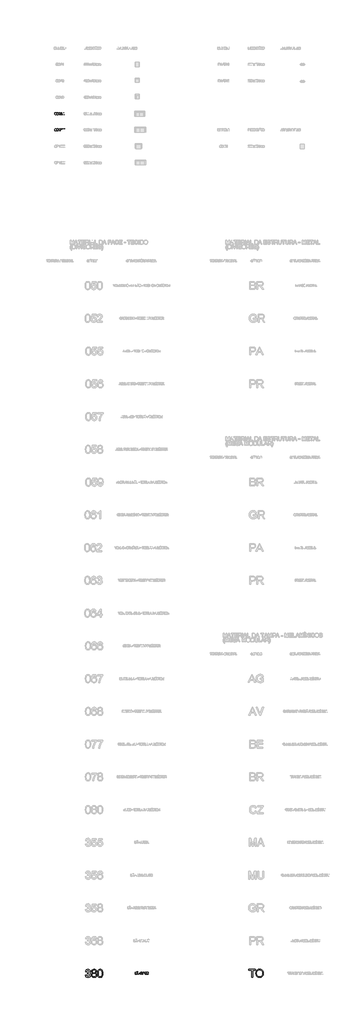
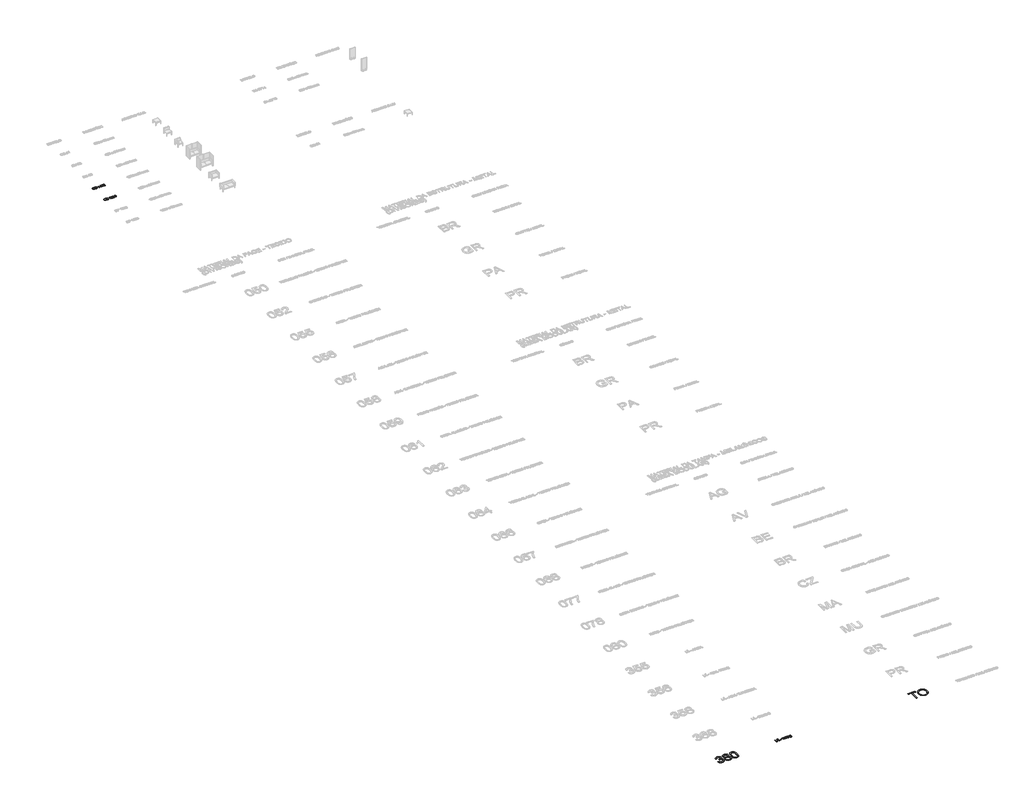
# One storey, part 24 of 67: 5 proxies.
"""IFC4 building model written with IfcOpenShell, lengths in millimetres."""

from ifc_helpers import new_model, si_unit, origin, origin_with_axes, place, context, project, spatial, polyline, outline, extrude, element, save

model = new_model("IFC4")

# Units and contexts
model_context = context("Model", 3, world=origin())
ifc_project = project(units=[si_unit("LENGTHUNIT", "METRE", prefix="MILLI")], contexts=[model_context])

# Site, building, storey
site = spatial("IfcSite", under=ifc_project)
building = spatial("IfcBuilding", under=site)
storey = spatial("IfcBuildingStorey", under=building, Name="Marelli - Linha COLAB - Planta Baixa", Elevation=0.0)

# Proxies
placement = place(None, origin())
element("IfcBuildingElementProxy", 1, Name="1200mm Arial", ObjectType="1200mm Arial", at=placement, inside=storey, context=model_context, shape_type="SweptSolid", body=[
    extrude(outline(polyline([(25176.7442257, -132988.8184403), (25176.7442257, -131934.0271837), (24781.1975045, -131934.0271837), (24781.1975045, -131783.3427185), (25722.9754121, -131783.3427185), (25722.9754121, -131934.0271837), (25327.4286909, -131934.0271837), (25327.4286909, -132988.8184403), (25176.7442257, -132988.8184403)])), origin_with_axes(), (0.0, 0.0, 1.0), 10.0),
    extrude(outline(polyline([(25835.9887611, -132401.9730816), (25838.4995557, -132329.2474096), (25846.0319395, -132260.5776367), (25858.5859126, -132195.9637628), (25876.1614749, -132135.4057879), (25898.7586265, -132078.9037119), (25926.3773673, -132026.457535), (25959.0176973, -131978.067257), (25996.6796166, -131933.7328781), (26038.3100628, -131894.0706005), (26082.8559739, -131859.6966266), (26130.3173498, -131830.6109563), (26180.6941905, -131806.8135898), (26233.9864961, -131788.3045269), (26290.1942664, -131775.0837677), (26349.3175016, -131767.1513122), (26411.3562015, -131764.5071603), (26492.4557874, -131769.4735673), (26569.471883, -131784.3727881), (26642.4044886, -131809.2048227), (26711.253604, -131843.9696713), (26774.0878488, -131887.61887), (26828.9758424, -131939.1039552), (26875.917585, -131998.424927), (26914.9130765, -132065.5817852), (26945.5576467, -132139.0478196), (26967.4466254, -132217.29632), (26980.5800127, -132300.3272863), (26984.9578084, -132388.1407185), (26980.3500864, -132477.1129791), (26966.5269204, -132561.2659855), (26943.4883105, -132640.5997377), (26911.2342566, -132715.1142359), (26870.5281138, -132782.8413112), (26822.1332373, -132841.812795), (26766.0496272, -132892.0286873), (26702.2772833, -132933.4889882), (26633.3270004, -132965.9361802), (26561.7095729, -132989.1127459), (26487.4250011, -133003.0186853), (26410.4732847, -133007.6539984), (26327.9573532, -133002.5312416), (26249.929582, -132987.1629713), (26176.3899712, -132961.5491874), (26107.3385207, -132925.6898899), (26044.5778523, -132880.9738334), (25989.9105878, -132828.7897724), (25943.3367273, -132769.1377068), (25904.8562706, -132702.0176368), (25874.7267352, -132630.1242979), (25853.2056384, -132556.1524257), (25840.2929804, -132480.1020203), (25835.9887611, -132401.9730816)]), holes=[polyline([(25986.6732263, -132403.4446095), (25988.5563222, -132454.7963375), (25994.2056101, -132503.3429653), (26003.62109, -132549.0844929), (26016.8027617, -132592.0209203), (26033.7506254, -132632.1522474), (26054.4646809, -132669.4784744), (26078.9449285, -132703.9996011), (26107.1913679, -132735.7156276), (26138.2796958, -132764.1345117), (26171.2856085, -132788.7642113), (26206.2091062, -132809.6047263), (26243.0501887, -132826.6560568), (26281.8088562, -132839.9182027), (26322.4851085, -132849.3911641), (26365.0789458, -132855.0749409), (26409.5903679, -132856.9695332), (26454.915729, -132855.0565468), (26498.1855494, -132849.3175877), (26539.3998292, -132839.7526558), (26578.5585683, -132826.3617512), (26615.6617668, -132809.1448738), (26650.7094246, -132788.1020237), (26683.7015418, -132763.2332008), (26714.6381183, -132734.5384052), (26742.6776242, -132702.325738), (26766.9785292, -132666.9033004), (26787.5408335, -132628.2710924), (26804.364537, -132586.4291139), (26817.4496397, -132541.3773651), (26826.7961416, -132493.1158459), (26832.4040428, -132441.6445562), (26834.2733432, -132386.9634962), (26831.0727698, -132318.0040162), (26821.4710497, -132253.5694847), (26805.468183, -132193.6599018), (26783.0641694, -132138.2752674), (26754.5073296, -132088.1421485), (26720.0459837, -132043.9871121), (26679.6801317, -132005.810158), (26633.4097738, -131973.6112864), (26582.6696496, -131948.0526848), (26528.894499, -131929.7965408), (26472.0843219, -131918.8428543), (26412.2391183, -131915.1916255), (26369.4406467, -131916.9505613), (26328.1596883, -131922.2273687), (26288.3962432, -131931.0220476), (26250.1503112, -131943.3345982), (26213.4218925, -131959.1650203), (26178.2109871, -131978.513314), (26144.5175948, -132001.3794792), (26112.3417158, -132027.7635161), (26082.8881636, -132058.2586342), (26057.3617517, -132093.4580434), (26035.76248, -132133.3617435), (26018.0903487, -132177.9697347), (26004.3453576, -132227.2820169), (25994.5275069, -132281.2985901), (25988.6367964, -132340.0194543), (25986.6732263, -132403.4446095)])]), origin_with_axes(), (0.0, 0.0, 1.0), 10.0),
])
element("IfcBuildingElementProxy", 2, Name="1200mm Arial", ObjectType="1200mm Arial", at=placement, inside=storey, context=model_context, shape_type="SweptSolid", body=[
    extrude(outline(polyline([(-181.1313792, -132668.6139517), (-30.446914, -132649.7783935), (-15.5384961, -132700.9691731), (3.287865, -132744.4712191), (26.0321693, -132780.2845313), (52.6944169, -132808.4091098), (83.8816131, -132829.6542951), (120.200763, -132844.8294274), (161.6518669, -132853.9345067), (208.2349245, -132856.9695332), (262.8286126, -132852.7940725), (311.5361887, -132840.2676906), (354.357653, -132819.3903874), (391.2930053, -132790.1621629), (421.0362646, -132754.7719149), (442.2814498, -132715.4085415), (455.028561, -132672.0720424), (459.277598, -132624.7624178), (455.0653492, -132579.7060705), (442.4286026, -132538.7148192), (421.3673584, -132501.7886639), (391.8816165, -132468.9276047), (355.9027574, -132441.9526574), (315.3621615, -132422.6848379), (270.2598289, -132411.1241462), (220.5957595, -132407.2705823), (172.9918294, -132411.3908606), (114.9400505, -132423.7516957), (131.7154695, -132273.0672304), (155.8485284, -132274.833064), (202.1832657, -132272.1291314), (246.12677, -132264.0173334), (287.6790413, -132250.49767), (326.8400797, -132231.5701414), (360.0598239, -132207.0324123), (383.7882126, -132176.6821477), (398.0252458, -132140.5193476), (402.7709235, -132098.5440119), (399.3312269, -132064.4689421), (389.0121369, -132033.465687), (371.8136536, -132005.5342465), (347.7357771, -131980.6746207), (318.231641, -131960.266367), (284.7543795, -131945.6890429), (247.3039924, -131936.9426485), (205.8804797, -131934.0271837), (164.5673317, -131936.9702397), (126.8594272, -131945.7994075), (92.7567662, -131960.5146873), (62.2593488, -131981.1160791), (36.121333, -132007.6035827), (15.096877, -132039.9771983), (-0.8140193, -132078.2369258), (-11.6113558, -132122.3827652), (-162.2958211, -132103.5472071), (-144.4351502, -132031.6078829), (-117.9292524, -131968.2402092), (-82.7781278, -131913.4441861), (-38.9817763, -131867.2198134), (12.0802447, -131830.5235844), (69.0283775, -131804.3119922), (131.8626223, -131788.5850369), (200.582979, -131783.3427185), (248.9134761, -131785.9270895), (295.3125927, -131793.6802025), (339.7803289, -131806.6020576), (382.3166846, -131824.6926547), (421.4409348, -131847.2622151), (455.6723544, -131873.6209601), (485.0109436, -131903.7688896), (509.4567021, -131937.7060036), (528.7061275, -131974.0803359), (542.4557171, -132011.5399201), (550.7054709, -132050.0847561), (553.4553888, -132089.7148441), (550.8434266, -132126.9812902), (543.0075401, -132162.5554791), (529.9477293, -132196.4374109), (511.6639941, -132228.6270854), (488.2666992, -132258.3703447), (459.8662092, -132284.9130307), (426.462524, -132308.2551433), (388.0556437, -132328.3966825), (438.2715361, -132344.1052437), (482.3805873, -132366.5092572), (520.3827974, -132395.608723), (552.2781664, -132431.4036412), (577.5148712, -132473.0110948), (595.541089, -132519.5481672), (606.3568197, -132571.0148583), (609.9620632, -132627.4111682), (608.1594414, -132666.3882656), (602.7515761, -132703.8570468), (593.7384672, -132739.8175118), (581.1201148, -132774.2696607), (564.8965188, -132807.2134933), (545.0676793, -132838.6490098), (521.6335962, -132868.5762101), (494.5942695, -132896.9950943), (464.8004265, -132922.9307749), (433.102794, -132945.4083648), (399.5013723, -132964.427864), (363.9961612, -132979.9892724), (326.5871609, -132992.09259), (287.2743712, -133000.7378169), (246.0577921, -133005.924953), (202.9374238, -133007.6539984), (126.7122744, -133001.7494924), (91.1380854, -132994.3688599), (57.2561537, -132984.0359743), (25.0664791, -132970.7508358), (-5.4309383, -132954.5134442), (-34.2360985, -132935.3237996), (-61.3490016, -132913.1819021), (-86.2040289, -132888.6947568), (-108.2355619, -132862.469369), (-127.4436005, -132834.5057389), (-143.8281449, -132804.8038663), (-157.3891949, -132773.3637513), (-168.1267507, -132740.1853938), (-181.1313792, -132668.6139517)])), origin_with_axes(), (0.0, 0.0, 1.0), 10.0),
    extrude(outline(polyline([(961.362945, -132324.8650154), (918.0172489, -132306.7652212), (880.6864235, -132285.1337599), (849.3704686, -132259.9706314), (824.0693844, -132231.2758358), (804.5624416, -132199.3252845), (790.6289111, -132164.3948891), (782.2687927, -132126.4846495), (779.4820866, -132085.5945657), (785.5521395, -132024.1398784), (793.1397057, -131995.3301197), (803.7622983, -131967.7987509), (817.4199174, -131941.545772), (834.1125629, -131916.571183), (876.6029333, -131870.4571749), (901.890222, -131850.0397242), (929.1916645, -131832.3446002), (958.507261, -131817.371803), (989.8370114, -131805.1213326), (1058.538974, -131788.787372), (1135.2975523, -131783.3427185), (1212.4240126, -131788.9161307), (1281.64101, -131805.6363674), (1313.2834601, -131818.1765449), (1342.9485445, -131833.5034285), (1370.6362632, -131851.6170182), (1396.3466161, -131872.5173141), (1439.6095387, -131919.5326331), (1456.6056869, -131944.8613085), (1470.5116263, -131971.4039944), (1481.327357, -131999.1606909), (1489.0528789, -132028.1313981), (1493.688192, -132058.3161158), (1495.2332964, -132089.7148441), (1492.4833785, -132129.160991), (1484.2336248, -132165.9767817), (1470.4840352, -132200.1622161), (1451.2346098, -132231.7172942), (1426.3933781, -132260.2189518), (1395.8683695, -132285.2441245), (1359.6595841, -132306.7928124), (1317.7670219, -132324.8650154), (1367.2931355, -132345.9354566), (1410.5100729, -132372.6528865), (1447.4178341, -132405.0173051), (1478.016419, -132443.0287122), (1502.0299163, -132485.8409794), (1519.1824143, -132532.607978), (1529.4739131, -132583.3297081), (1532.9044127, -132638.0061697), (1531.2029585, -132676.3670647), (1526.0985958, -132713.1644613), (1517.5913247, -132748.3983594), (1505.6811451, -132782.068759), (1490.368057, -132814.1756601), (1471.6520605, -132844.7190628), (1449.5331556, -132873.6989669), (1424.0113422, -132901.1153726), (1395.7120197, -132926.085363), (1365.2605875, -132947.7260214), (1332.6570457, -132966.0373477), (1297.9013942, -132981.019342), (1260.993633, -132992.6720042), (1221.9337622, -133000.9953343), (1180.7217817, -133005.9893324), (1137.3576915, -133007.6539984), (1093.9936013, -133005.9824346), (1052.7816208, -133000.9677432), (1013.72175, -132992.6099241), (976.8139888, -132980.9089774), (942.0583373, -132965.864903), (909.4547955, -132947.4777011), (879.0033633, -132925.7473715), (850.7040409, -132900.6739142), (825.1822275, -132873.1034579), (803.0633225, -132843.8821312), (784.347326, -132813.009934), (769.0342379, -132780.4868664), (757.1240583, -132746.3129283), (748.6167872, -132710.4881198), (743.5124245, -132673.0124408), (741.8109703, -132633.8858913), (745.3794256, -132576.7170293), (756.0847917, -132524.4042096), (773.9270685, -132476.9474322), (798.9062559, -132434.3466971), (830.4705311, -132397.3745566), (868.068071, -132366.8035628), (911.6988757, -132342.6337157), (961.362945, -132324.8650154)]), holes=[polyline([(930.1665518, -132090.0091496), (933.5050809, -132124.553269), (943.5206683, -132155.7864504), (960.2133138, -132183.7086938), (983.5830175, -132208.3199993), (1013.3354739, -132228.4063562), (1049.1763773, -132242.753754), (1091.1057277, -132251.3621927), (1139.1235251, -132254.2316723), (1185.9549031, -132251.3805868), (1226.9737455, -132242.8273304), (1262.1800525, -132228.5719031), (1291.5738239, -132208.6143049), (1314.7503896, -132184.5180342), (1331.3050794, -132157.8465896), (1341.2378932, -132128.5999709), (1344.5488312, -132096.7781784), (1341.1275286, -132063.714784), (1330.863621, -132033.3921106), (1313.7571082, -132005.810158), (1289.8079903, -131980.9689263), (1259.7520313, -131960.4319139), (1224.3249952, -131945.7626193), (1183.5268819, -131936.9610426), (1137.3576915, -131934.0271837), (1090.8298162, -131936.8966633), (1049.8385649, -131945.5051019), (1014.3839376, -131959.8524998), (984.4659343, -131979.9388567), (960.7099545, -132004.0351274), (943.7413974, -132030.4122664), (933.5602632, -132059.0702739), (930.1665518, -132090.0091496)]), polyline([(892.4954355, -132628.5883906), (894.068131, -132657.6418712), (898.7862176, -132686.2354992), (917.658564, -132742.0431979), (932.6589523, -132767.9328933), (952.4969889, -132790.7139859), (977.1726738, -132810.3864756), (1006.6860068, -132826.9503624), (1038.8756814, -132840.0837496), (1071.5803908, -132849.4647405), (1104.8001349, -132855.093335), (1138.5349139, -132856.9695332), (1193.0182374, -132853.0239988), (1241.1004141, -132841.1873956), (1282.7814442, -132821.4597236), (1318.0613275, -132793.8409828), (1346.1307238, -132760.133795), (1366.1802925, -132722.140782), (1378.2100338, -132679.8619437), (1382.2199475, -132633.2972801), (1378.0812751, -132585.9876555), (1365.6652577, -132542.9454621), (1344.9718955, -132504.1706998), (1316.0011884, -132469.6633687), (1279.7648118, -132441.336455), (1237.2744414, -132421.1029453), (1188.530077, -132408.9628395), (1133.5317188, -132404.9161375), (1079.8485386, -132408.9076572), (1032.4009583, -132420.8822161), (991.1889778, -132440.8398143), (956.2125971, -132468.7804519), (928.3363389, -132502.7175659), (908.4247259, -132540.6645937), (896.4777581, -132582.6215353), (892.4954355, -132628.5883906)])]), origin_with_axes(), (0.0, 0.0, 1.0), 10.0),
    extrude(outline(polyline([(1664.7533198, -132395.792664), (1667.5216318, -132294.4319773), (1675.8265679, -132202.8385576), (1689.6681279, -132121.0124048), (1709.046312, -132048.953519), (1733.8783467, -131986.073289), (1764.0814585, -131931.7831035), (1799.6556474, -131886.0829627), (1840.6009135, -131848.9728664), (1887.0552124, -131820.2596767), (1939.1565, -131799.7502555), (1996.9047762, -131787.4446027), (2060.300041, -131783.3427185), (2107.9407594, -131785.7707396), (2153.1534566, -131793.0548031), (2195.9381326, -131805.194909), (2236.2947875, -131822.1910572), (2273.2485339, -131843.7581391), (2305.8244846, -131869.6110463), (2334.0226395, -131899.7497788), (2357.8429987, -131934.1743365), (2378.4811786, -131972.7467637), (2397.1327958, -132015.3291046), (2428.4763418, -132112.5235278), (2440.4509007, -132169.6831928), (2449.0041571, -132235.9479371), (2454.1361109, -132311.3177609), (2455.8467622, -132395.792664), (2453.1060414, -132496.5095573), (2444.8838788, -132587.6431245), (2431.1802744, -132669.1933658), (2411.9952284, -132741.1602811), (2387.3563318, -132804.0681023), (2357.2911757, -132858.4410612), (2321.7997602, -132904.2791578), (2280.8820853, -132941.5823921), (2234.3726041, -132970.4887199), (2182.1057696, -132991.1360968), (2124.0815819, -133003.524523), (2060.300041, -133007.6539984), (2017.6257296, -133005.8605737), (1977.3058629, -133000.4802995), (1939.340441, -132991.5131759), (1903.7294639, -132978.9592028), (1870.4729315, -132962.8183803), (1839.5708439, -132943.0907083), (1811.0232011, -132919.7761868), (1784.830003, -132892.8748159), (1756.6870304, -132850.2786794), (1732.2964541, -132802.0999336), (1711.6582742, -132748.3385785), (1694.7724906, -132688.9946142), (1681.6391034, -132624.0680406), (1672.2581125, -132553.5588577), (1666.629518, -132477.4670655), (1664.7533198, -132395.792664)]), holes=[polyline([(1815.437785, -132395.4983584), (1819.852369, -132526.4919399), (1833.0961208, -132632.5247279), (1843.0289347, -132676.1808245), (1855.1690405, -132713.5967226), (1869.5164383, -132744.7724225), (1886.0711281, -132769.7079239), (1923.4479388, -132807.884878), (1964.9450279, -132835.1541309), (2010.5623953, -132851.5156826), (2060.300041, -132856.9695332), (2110.0376868, -132851.4972885), (2155.6550542, -132835.0805545), (2197.1521432, -132807.7193311), (2234.5289539, -132769.4136183), (2251.0836437, -132744.418336), (2265.4310415, -132713.2104465), (2277.5711474, -132675.7899498), (2287.5039612, -132632.1568459), (2300.7477131, -132526.2528166), (2305.162297, -132395.4983584), (2300.8948659, -132267.9720648), (2288.0925724, -132163.8062779), (2278.4908523, -132120.4835744), (2266.7554167, -132083.0009976), (2252.8862655, -132051.3585475), (2236.8833987, -132025.5562241), (2200.1319874, -131985.5122689), (2158.1566517, -131956.9094438), (2110.9573917, -131939.7477487), (2058.5342074, -131934.0271837), (2009.0540791, -131939.067167), (1964.2092639, -131954.187117), (1923.9997618, -131979.3870337), (1888.4255729, -132014.666917), (1871.3190601, -132043.2145599), (1856.4934157, -132077.2068562), (1843.9486396, -132116.6438061), (1833.684732, -132161.5254095), (1819.9995218, -132267.6225769), (1815.437785, -132395.4983584)])]), origin_with_axes(), (0.0, 0.0, 1.0), 10.0),
])
element("IfcBuildingElementProxy", 3, Name="300mm Arial", ObjectType="300mm Arial", at=placement, inside=storey, context=model_context, shape_type="SweptSolid", body=[
    extrude(outline(polyline([(-4877.408004, -1176.9707502), (-4839.7368877, -1176.9707502), (-4835.4142742, -1197.8756446), (-4827.5967818, -1214.6786547), (-4815.4014937, -1228.0143771), (-4797.945493, -1238.517408), (-4776.6083373, -1245.332422), (-4752.769584, -1247.6040933), (-4731.7819162, -1245.884245), (-4713.4062105, -1240.7247), (-4698.5161868, -1232.5577197), (-4687.9855647, -1221.8155654), (-4681.7223737, -1209.4823216), (-4679.6346434, -1196.5420724), (-4681.1981419, -1183.932917), (-4685.8886373, -1173.0344129), (-4695.416781, -1163.7361954), (-4711.4932242, -1155.9279001), (-4766.3444296, -1141.5437141), (-4802.3508799, -1132.0247675), (-4825.3894899, -1122.9656733), (-4844.1422746, -1110.2921386), (-4857.4320116, -1094.9330653), (-4865.3506716, -1077.2195472), (-4867.9902249, -1057.4826782), (-4864.7252722, -1035.4189555), (-4854.9304141, -1014.845155), (-4838.8631679, -997.4075484), (-4816.7810512, -984.7524077), (-4790.2751534, -977.054477), (-4760.9365643, -974.4885001), (-4729.1515599, -977.1740386), (-4701.3396811, -985.2306543), (-4678.4942092, -998.4928003), (-4661.6084256, -1016.7949295), (-4650.9214537, -1038.9966079), (-4646.6724166, -1063.9574013), (-4684.3435329, -1063.9574013), (-4691.2597144, -1041.4798114), (-4705.6806886, -1025.2562154), (-4728.2134608, -1015.4337661), (-4759.4650363, -1012.1596164), (-4791.4523758, -1015.3969779), (-4813.3965368, -1025.1090626), (-4826.0884657, -1039.4012781), (-4830.3191086, -1056.3790322), (-4827.3208703, -1070.8551887), (-4818.3261556, -1082.4986539), (-4797.0625762, -1092.9097143), (-4756.816286, -1103.541504), (-4715.2824087, -1113.6398648), (-4690.1560684, -1122.4506385), (-4668.680957, -1136.1174547), (-4653.6989627, -1152.9848441), (-4644.897386, -1172.868866), (-4641.9635271, -1195.5855792), (-4645.3388444, -1218.8081301), (-4655.4647963, -1240.6511236), (-4671.9275156, -1259.4498935), (-4694.313135, -1273.539774), (-4721.2329, -1282.3413507), (-4751.298056, -1285.2752096), (-4788.2058172, -1282.1114244), (-4818.583673, -1272.620069), (-4842.7811112, -1256.764355), (-4861.1476198, -1234.5074943), (-4872.9382377, -1207.3945912), (-4877.408004, -1176.9707502)])), origin_with_axes(), (0.0, 0.0, 1.0), 10.0),
    extrude(outline(polyline([(-4585.4568526, -1280.5663201), (-4585.4568526, -979.1973896), (-4368.8479339, -979.1973896), (-4368.8479339, -1016.8685059), (-4547.7857363, -1016.8685059), (-4547.7857363, -1106.3374072), (-4378.2657129, -1106.3374072), (-4378.2657129, -1144.0085235), (-4547.7857363, -1144.0085235), (-4547.7857363, -1242.8952038), (-4364.1390443, -1242.8952038), (-4364.1390443, -1280.5663201), (-4585.4568526, -1280.5663201)])), origin_with_axes(), (0.0, 0.0, 1.0), 10.0),
    extrude(outline(polyline([(-4062.7701139, -1280.5663201), (-4100.4412302, -1280.5663201), (-4100.4412302, -1045.7104543), (-4136.1257837, -1071.1311002), (-4175.7834628, -1090.1505994), (-4175.7834628, -1054.5396222), (-4146.1965533, -1038.4447849), (-4120.5643753, -1019.2965271), (-4100.3584567, -998.9342587), (-4087.0503255, -979.1973896), (-4062.7701139, -979.1973896), (-4062.7701139, -1280.5663201)])), origin_with_axes(), (0.0, 0.0, 1.0), 10.0),
    extrude(outline(polyline([(-3850.8700846, -1280.5663201), (-3850.8700846, -1209.932977), (-3987.4278813, -1209.932977), (-3987.4278813, -1172.2618607), (-3841.4523056, -983.9062792), (-3813.1989683, -983.9062792), (-3813.1989683, -1172.2618607), (-3775.527852, -1172.2618607), (-3775.527852, -1209.932977), (-3813.1989683, -1209.932977), (-3813.1989683, -1280.5663201), (-3850.8700846, -1280.5663201)]), holes=[polyline([(-3850.8700846, -1172.2618607), (-3850.8700846, -1055.8639974), (-3941.0747499, -1172.2618607), (-3850.8700846, -1172.2618607)])]), origin_with_axes(), (0.0, 0.0, 1.0), 10.0),
    extrude(outline(polyline([(-3742.5656253, -1132.309876), (-3739.7973133, -1084.0713494), (-3731.4923772, -1045.6000897), (-3717.7335906, -1016.3074859), (-3698.6037268, -995.6049266), (-3673.9648302, -983.2992739), (-3643.678945, -979.1973896), (-3620.4655911, -981.6254108), (-3599.6802583, -988.9094743), (-3582.2978341, -1000.7644716), (-3569.2932055, -1016.9052941), (-3559.4707563, -1037.1939862), (-3551.6348698, -1061.4925919), (-3546.5029159, -1092.3486943), (-3544.7922647, -1132.309876), (-3547.5329855, -1180.2724911), (-3555.7551481, -1218.6517803), (-3569.4311613, -1247.9719753), (-3588.5334339, -1268.757308), (-3613.2275128, -1281.1457342), (-3643.678945, -1285.2752096), (-3664.4274895, -1283.4817849), (-3682.8215892, -1278.1015107), (-3698.8612442, -1269.1343871), (-3712.5464545, -1256.580414), (-3725.6798417, -1233.8866934), (-3735.0608326, -1205.6103636), (-3740.6894271, -1171.7514244), (-3742.5656253, -1132.309876)]), holes=[polyline([(-3704.894509, -1132.2362996), (-3700.479925, -1191.492892), (-3694.9616951, -1211.7608907), (-3687.2361732, -1225.788691), (-3667.5176982, -1242.1502427), (-3643.678945, -1247.6040933), (-3619.8401917, -1242.1318486), (-3600.1217167, -1225.7151146), (-3592.3961948, -1211.6643216), (-3586.8779649, -1191.4009215), (-3582.463381, -1132.2362996), (-3586.7308121, -1074.3132795), (-3592.065101, -1054.1119594), (-3599.5331055, -1039.750766), (-3619.2147923, -1022.589071), (-3644.1204034, -1016.8685059), (-3667.7016392, -1021.9084893), (-3686.647562, -1037.0284393), (-3694.6306013, -1052.6634241), (-3700.3327722, -1073.7430624), (-3704.894509, -1132.2362996)])]), origin_with_axes(), (0.0, 0.0, 1.0), 10.0),
    extrude(outline(polyline([(-3511.8300379, -1132.309876), (-3509.0617259, -1084.0713494), (-3500.7567898, -1045.6000897), (-3486.9980032, -1016.3074859), (-3467.8681395, -995.6049266), (-3443.2292428, -983.2992739), (-3412.9433576, -979.1973896), (-3389.7300037, -981.6254108), (-3368.944671, -988.9094743), (-3351.5622467, -1000.7644716), (-3338.5576182, -1016.9052941), (-3328.7351689, -1037.1939862), (-3320.8992824, -1061.4925919), (-3315.7673286, -1092.3486943), (-3314.0566773, -1132.309876), (-3316.7973981, -1180.2724911), (-3325.0195607, -1218.6517803), (-3338.6955739, -1247.9719753), (-3357.7978465, -1268.757308), (-3382.4919254, -1281.1457342), (-3412.9433576, -1285.2752096), (-3433.6919021, -1283.4817849), (-3452.0860019, -1278.1015107), (-3468.1256569, -1269.1343871), (-3481.8108671, -1256.580414), (-3494.9442543, -1233.8866934), (-3504.3252452, -1205.6103636), (-3509.9538397, -1171.7514244), (-3511.8300379, -1132.309876)]), holes=[polyline([(-3474.1589216, -1132.2362996), (-3469.7443376, -1191.492892), (-3464.2261077, -1211.7608907), (-3456.5005858, -1225.788691), (-3436.7821109, -1242.1502427), (-3412.9433576, -1247.6040933), (-3389.1046043, -1242.1318486), (-3369.3861294, -1225.7151146), (-3361.6606075, -1211.6643216), (-3356.1423775, -1191.4009215), (-3351.7277936, -1132.2362996), (-3355.9952247, -1074.3132795), (-3361.3295137, -1054.1119594), (-3368.7975182, -1039.750766), (-3388.4792049, -1022.589071), (-3413.384816, -1016.8685059), (-3436.9660519, -1021.9084893), (-3455.9119746, -1037.0284393), (-3463.8950139, -1052.6634241), (-3469.5971848, -1073.7430624), (-3474.1589216, -1132.2362996)])]), origin_with_axes(), (0.0, 0.0, 1.0), 10.0),
])
element("IfcBuildingElementProxy", 4, Name="300mm Arial", ObjectType="300mm Arial", at=placement, inside=storey, context=model_context, shape_type="SweptSolid", body=[
    extrude(outline(polyline([(-4877.408004, -3676.9707502), (-4839.7368877, -3676.9707502), (-4835.4142742, -3697.8756446), (-4827.5967818, -3714.6786547), (-4815.4014937, -3728.0143771), (-4797.945493, -3738.517408), (-4776.6083373, -3745.332422), (-4752.769584, -3747.6040933), (-4731.7819162, -3745.884245), (-4713.4062105, -3740.7247), (-4698.5161868, -3732.5577197), (-4687.9855647, -3721.8155654), (-4681.7223737, -3709.4823216), (-4679.6346434, -3696.5420724), (-4681.1981419, -3683.932917), (-4685.8886373, -3673.0344129), (-4695.416781, -3663.7361954), (-4711.4932242, -3655.9279001), (-4766.3444296, -3641.5437141), (-4802.3508799, -3632.0247675), (-4825.3894899, -3622.9656733), (-4844.1422746, -3610.2921386), (-4857.4320116, -3594.9330653), (-4865.3506716, -3577.2195472), (-4867.9902249, -3557.4826782), (-4864.7252722, -3535.4189555), (-4854.9304141, -3514.845155), (-4838.8631679, -3497.4075484), (-4816.7810512, -3484.7524077), (-4790.2751534, -3477.054477), (-4760.9365643, -3474.4885001), (-4729.1515599, -3477.1740386), (-4701.3396811, -3485.2306543), (-4678.4942092, -3498.4928003), (-4661.6084256, -3516.7949295), (-4650.9214537, -3538.9966079), (-4646.6724166, -3563.9574013), (-4684.3435329, -3563.9574013), (-4691.2597144, -3541.4798114), (-4705.6806886, -3525.2562154), (-4728.2134608, -3515.4337661), (-4759.4650363, -3512.1596164), (-4791.4523758, -3515.3969779), (-4813.3965368, -3525.1090626), (-4826.0884657, -3539.4012781), (-4830.3191086, -3556.3790322), (-4827.3208703, -3570.8551887), (-4818.3261556, -3582.4986539), (-4797.0625762, -3592.9097143), (-4756.816286, -3603.541504), (-4715.2824087, -3613.6398648), (-4690.1560684, -3622.4506385), (-4668.680957, -3636.1174547), (-4653.6989627, -3652.9848441), (-4644.897386, -3672.868866), (-4641.9635271, -3695.5855792), (-4645.3388444, -3718.8081301), (-4655.4647963, -3740.6511236), (-4671.9275156, -3759.4498935), (-4694.313135, -3773.539774), (-4721.2329, -3782.3413507), (-4751.298056, -3785.2752096), (-4788.2058172, -3782.1114244), (-4818.583673, -3772.620069), (-4842.7811112, -3756.764355), (-4861.1476198, -3734.5074943), (-4872.9382377, -3707.3945912), (-4877.408004, -3676.9707502)])), origin_with_axes(), (0.0, 0.0, 1.0), 10.0),
    extrude(outline(polyline([(-4585.4568526, -3780.5663201), (-4585.4568526, -3479.1973896), (-4368.8479339, -3479.1973896), (-4368.8479339, -3516.8685059), (-4547.7857363, -3516.8685059), (-4547.7857363, -3606.3374072), (-4378.2657129, -3606.3374072), (-4378.2657129, -3644.0085235), (-4547.7857363, -3644.0085235), (-4547.7857363, -3742.8952038), (-4364.1390443, -3742.8952038), (-4364.1390443, -3780.5663201), (-4585.4568526, -3780.5663201)])), origin_with_axes(), (0.0, 0.0, 1.0), 10.0),
    extrude(outline(polyline([(-4062.7701139, -3780.5663201), (-4100.4412302, -3780.5663201), (-4100.4412302, -3545.7104543), (-4136.1257837, -3571.1311002), (-4175.7834628, -3590.1505994), (-4175.7834628, -3554.5396222), (-4146.1965533, -3538.4447849), (-4120.5643753, -3519.2965271), (-4100.3584567, -3498.9342587), (-4087.0503255, -3479.1973896), (-4062.7701139, -3479.1973896), (-4062.7701139, -3780.5663201)])), origin_with_axes(), (0.0, 0.0, 1.0), 10.0),
    extrude(outline(polyline([(-3780.2367416, -3559.2485118), (-3817.9078579, -3563.9574013), (-3823.9779108, -3545.2873901), (-3832.1816793, -3532.5402789), (-3849.269798, -3520.7864492), (-3869.926372, -3516.8685059), (-3887.437555, -3519.1493743), (-3903.9186683, -3525.9919794), (-3918.0729281, -3540.4037566), (-3929.6336198, -3560.2417932), (-3937.4419152, -3588.3019923), (-3940.3389859, -3627.3802573), (-3925.2282329, -3609.7495127), (-3907.1192417, -3597.3242983), (-3887.0236877, -3589.9574613), (-3865.9532464, -3587.501849), (-3847.8534523, -3589.1803106), (-3831.1516097, -3594.2156954), (-3815.8477187, -3602.6080034), (-3801.9417793, -3614.3572346), (-3790.3856861, -3628.7644133), (-3782.1313338, -3645.1305635), (-3777.1787225, -3663.4556854), (-3775.527852, -3683.7397789), (-3778.6364549, -3710.7147262), (-3787.9622635, -3735.7215049), (-3802.7327256, -3756.9299019), (-3822.175289, -3772.5097044), (-3845.407037, -3782.0838333), (-3871.5450528, -3785.2752096), (-3894.0019493, -3783.1598881), (-3914.2837436, -3776.8139237), (-3932.3904355, -3766.2373164), (-3948.3220252, -3751.4300661), (-3961.3105589, -3731.7667734), (-3970.5880829, -3706.622039), (-3976.1545974, -3675.9958629), (-3978.0101022, -3639.8882451), (-3975.949963, -3599.4074301), (-3969.7695455, -3564.8587122), (-3959.4688496, -3536.2420915), (-3945.0478754, -3513.557568), (-3929.4174891, -3498.5249899), (-3911.2947024, -3487.7874342), (-3890.679515, -3481.3449008), (-3867.5719272, -3479.1973896), (-3834.51773, -3484.5132844), (-3808.0486204, -3500.4609689), (-3789.5073678, -3525.7896443), (-3780.2367416, -3559.2485118)]), holes=[polyline([(-3940.3389859, -3683.1511677), (-3938.1592851, -3699.8438133), (-3931.6201826, -3715.7823007), (-3921.4666395, -3729.485905), (-3908.4436169, -3739.4739012), (-3892.7258586, -3745.5715453), (-3874.4881087, -3747.6040933), (-3849.6284829, -3743.3918445), (-3830.0847519, -3730.7550979), (-3817.4204142, -3710.8894702), (-3813.1989683, -3684.9905777), (-3817.3652319, -3660.1309519), (-3829.8640227, -3641.1758321), (-3849.7388475, -3629.173682), (-3876.0332131, -3625.1729653), (-3900.8560507, -3629.173682), (-3921.6137923, -3641.1758321), (-3935.6576875, -3659.6710994), (-3940.3389859, -3683.1511677)])]), origin_with_axes(), (0.0, 0.0, 1.0), 10.0),
    extrude(outline(polyline([(-3742.5656253, -3632.309876), (-3739.7973133, -3584.0713494), (-3731.4923772, -3545.6000897), (-3717.7335906, -3516.3074859), (-3698.6037268, -3495.6049266), (-3673.9648302, -3483.2992739), (-3643.678945, -3479.1973896), (-3620.4655911, -3481.6254108), (-3599.6802583, -3488.9094743), (-3582.2978341, -3500.7644716), (-3569.2932055, -3516.9052941), (-3559.4707563, -3537.1939862), (-3551.6348698, -3561.4925919), (-3546.5029159, -3592.3486943), (-3544.7922647, -3632.309876), (-3547.5329855, -3680.2724911), (-3555.7551481, -3718.6517803), (-3569.4311613, -3747.9719753), (-3588.5334339, -3768.757308), (-3613.2275128, -3781.1457342), (-3643.678945, -3785.2752096), (-3664.4274895, -3783.4817849), (-3682.8215892, -3778.1015107), (-3698.8612442, -3769.1343871), (-3712.5464545, -3756.580414), (-3725.6798417, -3733.8866934), (-3735.0608326, -3705.6103636), (-3740.6894271, -3671.7514244), (-3742.5656253, -3632.309876)]), holes=[polyline([(-3704.894509, -3632.2362996), (-3700.479925, -3691.492892), (-3694.9616951, -3711.7608907), (-3687.2361732, -3725.788691), (-3667.5176982, -3742.1502427), (-3643.678945, -3747.6040933), (-3619.8401917, -3742.1318486), (-3600.1217167, -3725.7151146), (-3592.3961948, -3711.6643216), (-3586.8779649, -3691.4009215), (-3582.463381, -3632.2362996), (-3586.7308121, -3574.3132795), (-3592.065101, -3554.1119594), (-3599.5331055, -3539.750766), (-3619.2147923, -3522.589071), (-3644.1204034, -3516.8685059), (-3667.7016392, -3521.9084893), (-3686.647562, -3537.0284393), (-3694.6306013, -3552.6634241), (-3700.3327722, -3573.7430624), (-3704.894509, -3632.2362996)])]), origin_with_axes(), (0.0, 0.0, 1.0), 10.0),
    extrude(outline(polyline([(-3511.8300379, -3632.309876), (-3509.0617259, -3584.0713494), (-3500.7567898, -3545.6000897), (-3486.9980032, -3516.3074859), (-3467.8681395, -3495.6049266), (-3443.2292428, -3483.2992739), (-3412.9433576, -3479.1973896), (-3389.7300037, -3481.6254108), (-3368.944671, -3488.9094743), (-3351.5622467, -3500.7644716), (-3338.5576182, -3516.9052941), (-3328.7351689, -3537.1939862), (-3320.8992824, -3561.4925919), (-3315.7673286, -3592.3486943), (-3314.0566773, -3632.309876), (-3316.7973981, -3680.2724911), (-3325.0195607, -3718.6517803), (-3338.6955739, -3747.9719753), (-3357.7978465, -3768.757308), (-3382.4919254, -3781.1457342), (-3412.9433576, -3785.2752096), (-3433.6919021, -3783.4817849), (-3452.0860019, -3778.1015107), (-3468.1256569, -3769.1343871), (-3481.8108671, -3756.580414), (-3494.9442543, -3733.8866934), (-3504.3252452, -3705.6103636), (-3509.9538397, -3671.7514244), (-3511.8300379, -3632.309876)]), holes=[polyline([(-3474.1589216, -3632.2362996), (-3469.7443376, -3691.492892), (-3464.2261077, -3711.7608907), (-3456.5005858, -3725.788691), (-3436.7821109, -3742.1502427), (-3412.9433576, -3747.6040933), (-3389.1046043, -3742.1318486), (-3369.3861294, -3725.7151146), (-3361.6606075, -3711.6643216), (-3356.1423775, -3691.4009215), (-3351.7277936, -3632.2362996), (-3355.9952247, -3574.3132795), (-3361.3295137, -3554.1119594), (-3368.7975182, -3539.750766), (-3388.4792049, -3522.589071), (-3413.384816, -3516.8685059), (-3436.9660519, -3521.9084893), (-3455.9119746, -3537.0284393), (-3463.8950139, -3552.6634241), (-3469.5971848, -3573.7430624), (-3474.1589216, -3632.2362996)])]), origin_with_axes(), (0.0, 0.0, 1.0), 10.0),
])
element("IfcBuildingElementProxy", 5, Name="300mm Arial", ObjectType="300mm Arial", at=placement, inside=storey, context=model_context, shape_type="SweptSolid", body=[
    extrude(outline(polyline([(7401.2741877, -132530.5663201), (7401.2741877, -132229.1973896), (7438.945304, -132229.1973896), (7438.945304, -132492.8952038), (7589.6297692, -132492.8952038), (7589.6297692, -132530.5663201), (7401.2741877, -132530.5663201)])), origin_with_axes(), (0.0, 0.0, 1.0), 10.0),
    extrude(outline(polyline([(7674.3897809, -132210.3618315), (7677.2408664, -132187.2036599), (7686.0884284, -132169.2326244), (7699.4241507, -132157.6995239), (7716.0340228, -132153.855157), (7729.9399622, -132156.8901835), (7746.2003464, -132165.9952628), (7761.430661, -132172.6907152), (7769.4137003, -132168.9015306), (7773.2764612, -132153.855157), (7806.238688, -132153.855157), (7802.9553412, -132178.5768271), (7794.2825232, -132196.2351629), (7781.3790622, -132206.8301643), (7765.4037865, -132210.3618315), (7751.4058766, -132207.4923519), (7735.6053449, -132198.8839132), (7719.7128427, -132191.5262733), (7710.7365221, -132196.3087393), (7707.3520077, -132210.3618315), (7674.3897809, -132210.3618315)])), origin_with_axes(), (0.0, 0.0, 1.0), 10.0),
    extrude(outline(polyline([(7596.9138328, -132530.5663201), (7717.2112452, -132229.1973896), (7749.2905552, -132229.1973896), (7869.5879676, -132530.5663201), (7829.7831357, -132530.5663201), (7795.2758046, -132436.3885293), (7671.1524194, -132436.3885293), (7636.7186646, -132530.5663201), (7596.9138328, -132530.5663201)]), holes=[polyline([(7684.9847824, -132398.717413), (7781.5170179, -132398.717413), (7754.3673267, -132324.6259792), (7733.2509002, -132266.8685059), (7714.4889184, -132318.1512561), (7684.9847824, -132398.717413)])]), origin_with_axes(), (0.0, 0.0, 1.0), 10.0),
    extrude(outline(polyline([(8004.0120486, -132441.0974188), (8004.0120486, -132403.4263025), (8121.7342871, -132403.4263025), (8121.7342871, -132441.0974188), (8004.0120486, -132441.0974188)])), origin_with_axes(), (0.0, 0.0, 1.0), 10.0),
    extrude(outline(polyline([(8286.5454209, -132530.5663201), (8286.5454209, -132229.1973896), (8416.4077652, -132229.1973896), (8451.3105695, -132231.2299376), (8476.7036242, -132237.3275817), (8495.2632709, -132248.5847708), (8509.665851, -132266.0959537), (8518.9088861, -132287.8101885), (8521.9898978, -132311.6765329), (8516.8855351, -132341.3646099), (8501.5724471, -132365.9759154), (8489.9726679, -132376.0052983), (8475.5907812, -132384.0205273), (8438.4806849, -132394.0085235), (8459.891417, -132410.1217548), (8490.4256226, -132448.8965171), (8540.6783032, -132530.5663201), (8496.9003458, -132530.5663201), (8457.6841251, -132468.0999573), (8429.3572114, -132426.750021), (8409.4547955, -132407.2154871), (8391.5389423, -132400.0417882), (8369.6867518, -132398.717413), (8324.2165372, -132398.717413), (8324.2165372, -132530.5663201), (8286.5454209, -132530.5663201)]), holes=[polyline([(8324.2165372, -132361.0462967), (8408.5350905, -132361.0462967), (8432.7509228, -132359.7127245), (8451.5404957, -132355.7120078), (8465.6855585, -132348.7774322), (8475.9678602, -132338.6422832), (8482.2310512, -132326.3826157), (8484.3187815, -132313.0744845), (8480.3364589, -132294.6987789), (8468.3894911, -132279.8915286), (8447.8340846, -132270.1242616), (8418.026446, -132266.8685059), (8324.2165372, -132266.8685059), (8324.2165372, -132361.0462967)])]), origin_with_axes(), (0.0, 0.0, 1.0), 10.0),
    extrude(outline(polyline([(8573.7876827, -132383.8549804), (8576.2984774, -132348.5061192), (8583.8308612, -132317.213157), (8596.3848343, -132289.9760937), (8613.9603966, -132266.7949295), (8635.504486, -132248.2858666), (8659.9640401, -132235.0651074), (8687.3390591, -132227.1326519), (8717.6295429, -132224.4885001), (8757.1584632, -132229.454907), (8792.6038935, -132244.3541278), (8822.0344531, -132268.1376988), (8843.5187616, -132299.7571563), (8856.6521488, -132337.68579), (8861.0299446, -132380.3968896), (8856.4222226, -132423.6782064), (8842.5990566, -132462.140269), (8820.3238018, -132493.8149088), (8790.3598133, -132516.733957), (8755.2178857, -132530.6398965), (8717.4088137, -132535.2752096), (8677.272888, -132530.1524528), (8641.6251227, -132514.7841825), (8612.2681394, -132490.5591531), (8591.0045601, -132458.8661192), (8578.0919021, -132422.3998164), (8573.7876827, -132383.8549804)]), holes=[polyline([(8611.458799, -132384.2228624), (8613.341895, -132409.1974513), (8618.9911829, -132431.3669401), (8628.4066627, -132450.7313286), (8641.5883345, -132467.2906169), (8657.6118946, -132480.5527628), (8675.5530397, -132490.0257242), (8695.4117696, -132495.709501), (8717.1880845, -132497.6040933), (8739.3368798, -132495.6911069), (8759.4301346, -132489.9521478), (8777.4678486, -132480.3872159), (8793.4500221, -132466.9963113), (8806.5351248, -132450.0875351), (8815.8816267, -132429.9689885), (8821.4895279, -132406.6406715), (8823.3588283, -132380.102584), (8820.1582549, -132346.7540812), (8810.5565348, -132317.9305269), (8794.8019884, -132294.358488), (8773.1429359, -132276.7645316), (8747.0141172, -132265.8108452), (8717.8502721, -132262.1596164), (8696.8304146, -132263.9185522), (8677.3280703, -132269.1953595), (8659.3432392, -132277.9900385), (8642.8759214, -132290.302589), (8629.1309304, -132306.7262208), (8619.3130796, -132327.8541437), (8613.4223692, -132353.6863575), (8611.458799, -132384.2228624)])]), origin_with_axes(), (0.0, 0.0, 1.0), 10.0),
    extrude(outline(polyline([(8898.7010609, -132426.9707502), (8936.3721772, -132426.9707502), (8940.6947906, -132447.8756446), (8948.512283, -132464.6786547), (8960.7075712, -132478.0143771), (8978.1635718, -132488.517408), (8999.5007276, -132495.332422), (9023.3394808, -132497.6040933), (9044.3271487, -132495.884245), (9062.7028543, -132490.7247), (9077.5928781, -132482.5577197), (9088.1235002, -132471.8155654), (9094.3866912, -132459.4823216), (9096.4744215, -132446.5420724), (9094.910923, -132433.932917), (9090.2204276, -132423.0344129), (9080.6922839, -132413.7361954), (9064.6158407, -132405.9279001), (9009.7646352, -132391.5437141), (8973.7581849, -132382.0247675), (8950.719575, -132372.9656733), (8931.9667903, -132360.2921386), (8918.6770532, -132344.9330653), (8910.7583933, -132327.2195472), (8908.11884, -132307.4826782), (8911.3837927, -132285.4189555), (8921.1786508, -132264.845155), (8937.2458969, -132247.4075484), (8959.3280137, -132234.7524077), (8985.8339114, -132227.054477), (9015.1725006, -132224.4885001), (9046.9575049, -132227.1740386), (9074.7693838, -132235.2306543), (9097.6148557, -132248.4928003), (9114.5006393, -132266.7949295), (9125.1876112, -132288.9966079), (9129.4366483, -132313.9574013), (9091.765532, -132313.9574013), (9084.8493504, -132291.4798114), (9070.4283762, -132275.2562154), (9047.895604, -132265.4337661), (9016.6440285, -132262.1596164), (8984.6566891, -132265.3969779), (8962.712528, -132275.1090626), (8950.0205992, -132289.4012781), (8945.7899563, -132306.3790322), (8948.7881945, -132320.8551887), (8957.7829093, -132332.4986539), (8979.0464886, -132342.9097143), (9019.2927789, -132353.541504), (9060.8266562, -132363.6398648), (9085.9529964, -132372.4506385), (9107.4281079, -132386.1174547), (9122.4101022, -132402.9848441), (9131.2116789, -132422.868866), (9134.1455378, -132445.5855792), (9130.7702205, -132468.8081301), (9120.6442686, -132490.6511236), (9104.1815493, -132509.4498935), (9081.7959299, -132523.539774), (9054.8761649, -132532.3413507), (9024.8110088, -132535.2752096), (8987.9032477, -132532.1114244), (8957.5253919, -132522.620069), (8933.3279537, -132506.764355), (8914.9614451, -132484.5074943), (8903.1708271, -132457.3945912), (8898.7010609, -132426.9707502)])), origin_with_axes(), (0.0, 0.0, 1.0), 10.0),
    extrude(outline(polyline([(9190.6522123, -132530.5663201), (9190.6522123, -132229.1973896), (9407.261131, -132229.1973896), (9407.261131, -132266.8685059), (9228.3233286, -132266.8685059), (9228.3233286, -132356.3374072), (9397.8433519, -132356.3374072), (9397.8433519, -132394.0085235), (9228.3233286, -132394.0085235), (9228.3233286, -132492.8952038), (9411.9700206, -132492.8952038), (9411.9700206, -132530.5663201), (9190.6522123, -132530.5663201)])), origin_with_axes(), (0.0, 0.0, 1.0), 10.0),
])

save(model, "model.ifc")
